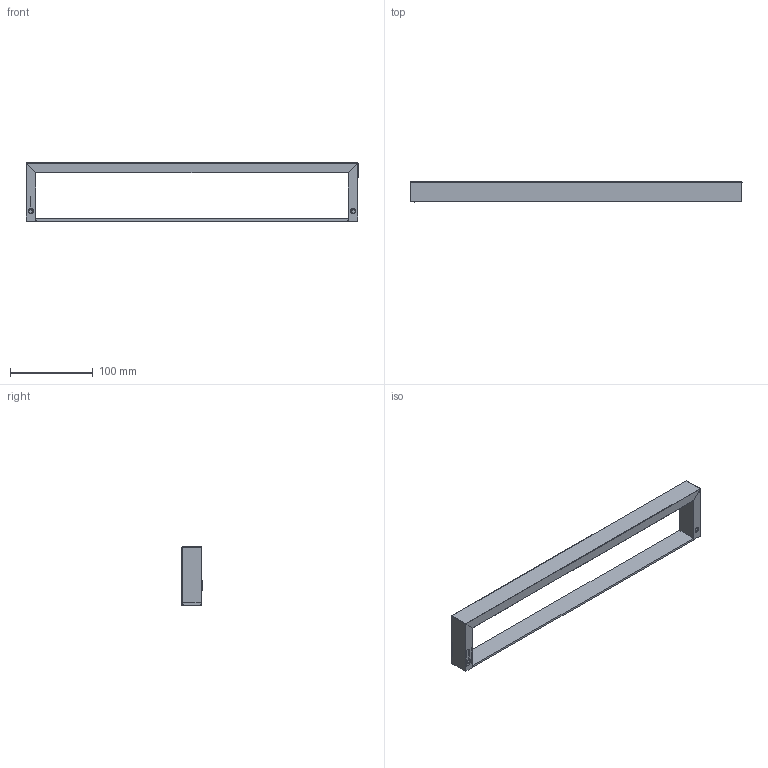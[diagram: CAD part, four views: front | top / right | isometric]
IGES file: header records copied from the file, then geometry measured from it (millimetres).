
Start section: SolidWorks IGES file using analytic representation for surfaces
Global section: file name: G:\Projects\New project\For Marketing\IGS\IGS\2015-12-11\491040002VW.IGS; native system: SolidWorks 2010; preprocessor: SolidWorks 2010; author: linda; date: 151211.110211; units: millimetre
Bounding box: 400 x 24.14 x 70 mm (x, y, z)
Surface area: 64171.8 mm2 (no closed solid volume)
Topology: 0 solids, 0 shells, 86 faces, 1004 edges, 1004 vertices
Faces by surface type: revolution 45, bspline 41
